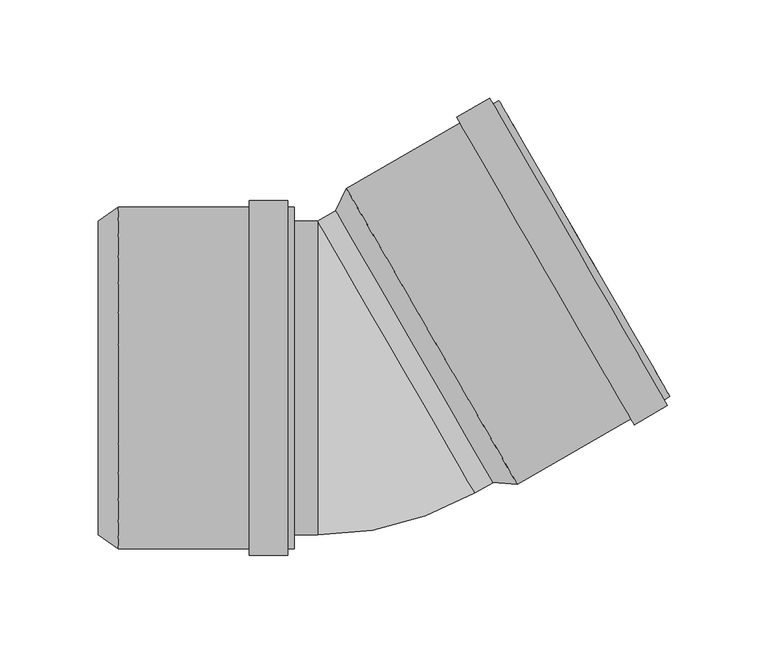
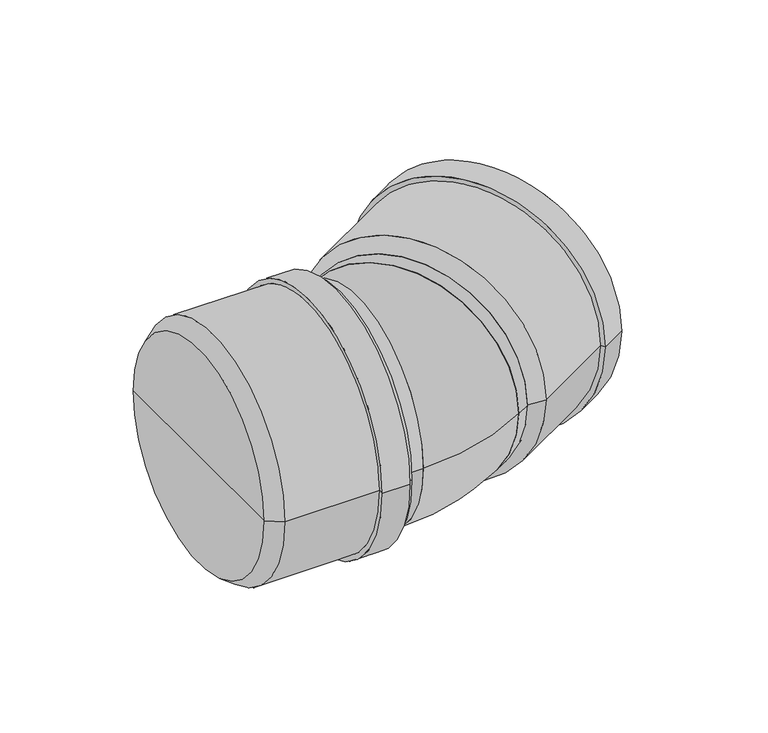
"""IFC4 building model written with IfcOpenShell, lengths in millimetres: pipe fitting geometry, pf_HTB : pf_HTB."""

from ifc_helpers import new_model, si_unit, point, frame, origin, origin_2d, place, context, project, spatial, polyline, circle_curve, ellipse_curve, trimmed, segment, composite_curve, outline, extrude, source, transform, mapped, element, save
from ifc_brep_helpers import plane_surface, cylinder_surface, revolved_surface, advanced_brep


def pipe_fitting_69d4b52c(model_context):
    return source(origin(), model_context, "Body", "SolidModel", [
        advanced_brep(
        [(67.7994155, -53.2320323, 0.0), (-12.2005845, 85.3320323, 0.0), (-6.8305229, 96.6308127, 0.0), (80.2694771, -54.2308127, 0.0), (27.7994155, 16.05, 0.0), (157.9519558, -9.3808127, 0.0), (70.8519558, 141.4808127, 0.0), (74.4019558, 135.3320323, 0.0), (154.4019558, -3.2320323, 0.0), (155.0074695, -11.0808127, 0.0), (67.9074695, 139.7808127, 0.0), (156.7074695, -14.025299, 0.0), (66.2074695, 142.725299, 0.0), (139.8199741, -23.775299, 0.0), (49.3199741, 132.975299, 0.0), (138.1199741, -20.8308127, 0.0), (51.0199741, 130.0308127, 0.0), (76.7194771, -48.0820323, 0.0), (-3.2805229, 90.4820323, 0.0), (36.7194771, 21.2, 0.0)],
        [
            (0, 1, circle_curve(frame((27.7994155, 16.05, 0.0), z_axis=(0.8660254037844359, 0.5000000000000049, 0.0), x_axis=(-0.5000000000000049, 0.8660254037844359, 0.0)), 80.0)),
            (1, 2),
            (2, 3, circle_curve(frame((36.7194771, 21.2, 0.0), z_axis=(-0.8660254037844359, -0.5000000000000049, 0.0), x_axis=(-0.5000000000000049, 0.8660254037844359, 0.0)), 87.1)),
            (3, 0),
            (1, 0, circle_curve(frame((27.7994155, 16.05, 0.0), z_axis=(0.8660254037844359, 0.5000000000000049, 0.0), x_axis=(-0.5000000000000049, 0.8660254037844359, 0.0)), 80.0)),
            (3, 2, circle_curve(frame((36.7194771, 21.2, 0.0), z_axis=(-0.8660254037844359, -0.5000000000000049, 0.0), x_axis=(-0.5000000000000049, 0.8660254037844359, 0.0)), 87.1)),
            (4, 1),
            (0, 4),
            (5, 6, circle_curve(frame((114.4019558, 66.05, 0.0), z_axis=(0.8660254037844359, 0.5000000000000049, 0.0), x_axis=(-0.5000000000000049, 0.8660254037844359, 0.0)), 87.1)),
            (6, 7),
            (7, 8, circle_curve(frame((114.4019558, 66.05, 0.0), z_axis=(-0.8660254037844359, -0.5000000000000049, 0.0), x_axis=(-0.5000000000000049, 0.8660254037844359, 0.0)), 80.0)),
            (8, 5),
            (6, 5, circle_curve(frame((114.4019558, 66.05, 0.0), z_axis=(0.8660254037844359, 0.5000000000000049, 0.0), x_axis=(-0.5000000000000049, 0.8660254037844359, 0.0)), 87.1)),
            (8, 7, circle_curve(frame((114.4019558, 66.05, 0.0), z_axis=(-0.8660254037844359, -0.5000000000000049, 0.0), x_axis=(-0.5000000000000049, 0.8660254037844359, 0.0)), 80.0)),
            (9, 10, circle_curve(frame((111.4574695, 64.35, 0.0), z_axis=(0.8660254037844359, 0.5000000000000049, 0.0), x_axis=(-0.5000000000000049, 0.8660254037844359, 0.0)), 87.1)),
            (10, 6),
            (5, 9),
            (10, 9, circle_curve(frame((111.4574695, 64.35, 0.0), z_axis=(0.8660254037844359, 0.5000000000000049, 0.0), x_axis=(-0.5000000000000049, 0.8660254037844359, 0.0)), 87.1)),
            (11, 12, circle_curve(frame((111.4574695, 64.35, 0.0), z_axis=(0.8660254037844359, 0.5000000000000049, 0.0), x_axis=(-0.5000000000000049, 0.8660254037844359, 0.0)), 90.5)),
            (12, 10),
            (9, 11),
            (12, 11, circle_curve(frame((111.4574695, 64.35, 0.0), z_axis=(0.8660254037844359, 0.5000000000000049, 0.0), x_axis=(-0.5000000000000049, 0.8660254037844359, 0.0)), 90.5)),
            (13, 14, circle_curve(frame((94.5699741, 54.6, 0.0), z_axis=(0.8660254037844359, 0.5000000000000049, 0.0), x_axis=(-0.5000000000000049, 0.8660254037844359, 0.0)), 90.5)),
            (14, 12),
            (11, 13),
            (14, 13, circle_curve(frame((94.5699741, 54.6, 0.0), z_axis=(0.8660254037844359, 0.5000000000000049, 0.0), x_axis=(-0.5000000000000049, 0.8660254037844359, 0.0)), 90.5)),
            (15, 16, circle_curve(frame((94.5699741, 54.6, 0.0), z_axis=(0.8660254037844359, 0.5000000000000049, 0.0), x_axis=(-0.5000000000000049, 0.8660254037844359, 0.0)), 87.1)),
            (16, 14),
            (13, 15),
            (16, 15, circle_curve(frame((94.5699741, 54.6, 0.0), z_axis=(0.8660254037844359, 0.5000000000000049, 0.0), x_axis=(-0.5000000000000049, 0.8660254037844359, 0.0)), 87.1)),
            (2, 16),
            (15, 3),
            (17, 18, circle_curve(frame((36.7194771, 21.2, 0.0), z_axis=(0.8660254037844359, 0.5000000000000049, 0.0), x_axis=(-0.5000000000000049, 0.8660254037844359, 0.0)), 80.0)),
            (18, 19),
            (19, 17),
            (18, 17, circle_curve(frame((36.7194771, 21.2, 0.0), z_axis=(0.8660254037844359, 0.5000000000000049, 0.0), x_axis=(-0.5000000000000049, 0.8660254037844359, 0.0)), 80.0)),
            (7, 18),
            (17, 8),
        ],
        [
            revolved_surface(polyline([(-6.8305229, 96.6308127, 0.0), (-12.2005845, 85.3320323, 0.0)]), (27.7994155, 16.05, 0.0), (-0.8660254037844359, -0.5000000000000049, 0.0)),
            plane_surface(frame((27.7994155, 16.05, 0.0), z_axis=(-0.8660254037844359, -0.5000000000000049, 0.0), x_axis=(-0.5000000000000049, 0.8660254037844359, 0.0))),
            plane_surface(frame((114.4019558, 66.05, 0.0), z_axis=(0.8660254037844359, 0.5000000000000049, 0.0), x_axis=(-0.5000000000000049, 0.8660254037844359, 0.0))),
            cylinder_surface(frame((27.7994155, 16.05, 0.0), z_axis=(-0.8660254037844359, -0.5000000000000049, 0.0), x_axis=(-0.5000000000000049, 0.8660254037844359, 0.0)), 87.1),
            plane_surface(frame((111.4574695, 64.35, 0.0), z_axis=(0.8660254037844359, 0.5000000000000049, 0.0), x_axis=(-0.5000000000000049, 0.8660254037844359, 0.0))),
            cylinder_surface(frame((27.7994155, 16.05, 0.0), z_axis=(-0.8660254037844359, -0.5000000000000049, 0.0), x_axis=(-0.5000000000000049, 0.8660254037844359, 0.0)), 90.5),
            plane_surface(frame((94.5699741, 54.6, 0.0), z_axis=(-0.8660254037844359, -0.5000000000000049, 0.0), x_axis=(-0.5000000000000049, 0.8660254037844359, 0.0))),
            plane_surface(frame((36.7194771, 21.2, 0.0), z_axis=(0.8660254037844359, 0.5000000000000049, 0.0), x_axis=(-0.5000000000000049, 0.8660254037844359, 0.0))),
            revolved_surface(polyline([(-3.2805228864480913, 90.4820322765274, 0.0), (74.40195582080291, 135.3320322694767, 0.0)]), (27.7994155, 16.05, 0.0), (-0.8660254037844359, -0.5000000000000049, 0.0)),
        ],
        [
            (0, [[1, 2, 3, 4]]),
            (0, [[5, -4, 6, -2]]),
            (1, [[7, -1, 8]]),
            (1, [[-8, -5, -7]]),
            (2, [[9, 10, 11, 12]]),
            (2, [[13, -12, 14, -10]]),
            (3, [[15, 16, -9, 17]]),
            (3, [[18, -17, -13, -16]]),
            (4, [[19, 20, -15, 21]]),
            (4, [[22, -21, -18, -20]]),
            (5, [[23, 24, -19, 25]]),
            (5, [[26, -25, -22, -24]]),
            (6, [[27, 28, -23, 29]]),
            (6, [[30, -29, -26, -28]]),
            (3, [[-3, 31, -27, 32]]),
            (3, [[-6, -32, -30, -31]]),
            (7, [[33, 34, 35]]),
            (7, [[36, -35, -34]]),
            (8, [[-11, 37, -33, 38]]),
            (8, [[-14, -38, -36, -37]]),
        ],
    ),
        advanced_brep(
        [(-133.3, -80.0, 0.0), (-133.3, 80.0, 0.0), (-123.0, 87.1, 0.0), (-123.0, -87.1, 0.0), (-133.3, 0.0, 0.0), (-33.3, -87.1, 0.0), (-33.3, 87.1, 0.0), (-33.3, 80.0, 0.0), (-33.3, -80.0, 0.0), (-36.7, -87.1, 0.0), (-36.7, 87.1, 0.0), (-36.7, -90.5, 0.0), (-36.7, 90.5, 0.0), (-56.2, -90.5, 0.0), (-56.2, 90.5, 0.0), (-56.2, -87.1, 0.0), (-56.2, 87.1, 0.0), (-123.0, -80.0, 0.0), (-123.0, 80.0, 0.0), (-123.0, 0.0, 0.0)],
        [
            (0, 1, circle_curve(frame((-133.3, 0.0, 0.0), z_axis=(1.0, 0.0, 0.0), x_axis=(0.0, 1.0, 0.0)), 80.0)),
            (1, 2),
            (2, 3, circle_curve(frame((-123.0, 0.0, 0.0), z_axis=(-1.0, 0.0, 0.0), x_axis=(0.0, 1.0, 0.0)), 87.1)),
            (3, 0),
            (1, 0, circle_curve(frame((-133.3, 0.0, 0.0), z_axis=(1.0, 0.0, 0.0), x_axis=(0.0, 1.0, 0.0)), 80.0)),
            (3, 2, circle_curve(frame((-123.0, 0.0, 0.0), z_axis=(-1.0, 0.0, 0.0), x_axis=(0.0, 1.0, 0.0)), 87.1)),
            (4, 1),
            (0, 4),
            (5, 6, circle_curve(frame((-33.3, 0.0, 0.0), z_axis=(1.0, 0.0, 0.0), x_axis=(0.0, 1.0, 0.0)), 87.1)),
            (6, 7),
            (7, 8, circle_curve(frame((-33.3, 0.0, 0.0), z_axis=(-1.0, 0.0, 0.0), x_axis=(0.0, 1.0, 0.0)), 80.0)),
            (8, 5),
            (6, 5, circle_curve(frame((-33.3, 0.0, 0.0), z_axis=(1.0, 0.0, 0.0), x_axis=(0.0, 1.0, 0.0)), 87.1)),
            (8, 7, circle_curve(frame((-33.3, 0.0, 0.0), z_axis=(-1.0, 0.0, 0.0), x_axis=(0.0, 1.0, 0.0)), 80.0)),
            (9, 10, circle_curve(frame((-36.7, 0.0, 0.0), z_axis=(1.0, 0.0, 0.0), x_axis=(0.0, 1.0, 0.0)), 87.1)),
            (10, 6),
            (5, 9),
            (10, 9, circle_curve(frame((-36.7, 0.0, 0.0), z_axis=(1.0, 0.0, 0.0), x_axis=(0.0, 1.0, 0.0)), 87.1)),
            (11, 12, circle_curve(frame((-36.7, 0.0, 0.0), z_axis=(1.0, 0.0, 0.0), x_axis=(0.0, 1.0, 0.0)), 90.5)),
            (12, 10),
            (9, 11),
            (12, 11, circle_curve(frame((-36.7, 0.0, 0.0), z_axis=(1.0, 0.0, 0.0), x_axis=(0.0, 1.0, 0.0)), 90.5)),
            (13, 14, circle_curve(frame((-56.2, 0.0, 0.0), z_axis=(1.0, 0.0, 0.0), x_axis=(0.0, 1.0, 0.0)), 90.5)),
            (14, 12),
            (11, 13),
            (14, 13, circle_curve(frame((-56.2, 0.0, 0.0), z_axis=(1.0, 0.0, 0.0), x_axis=(0.0, 1.0, 0.0)), 90.5)),
            (15, 16, circle_curve(frame((-56.2, 0.0, 0.0), z_axis=(1.0, 0.0, 0.0), x_axis=(0.0, 1.0, 0.0)), 87.1)),
            (16, 14),
            (13, 15),
            (16, 15, circle_curve(frame((-56.2, 0.0, 0.0), z_axis=(1.0, 0.0, 0.0), x_axis=(0.0, 1.0, 0.0)), 87.1)),
            (2, 16),
            (15, 3),
            (17, 18, circle_curve(frame((-123.0, 0.0, 0.0), z_axis=(1.0, 0.0, 0.0), x_axis=(0.0, 1.0, 0.0)), 80.0)),
            (18, 19),
            (19, 17),
            (18, 17, circle_curve(frame((-123.0, 0.0, 0.0), z_axis=(1.0, 0.0, 0.0), x_axis=(0.0, 1.0, 0.0)), 80.0)),
            (7, 18),
            (17, 8),
        ],
        [
            revolved_surface(polyline([(-123.0, 87.1, 0.0), (-133.3, 80.0, 0.0)]), (-133.3, 0.0, 0.0), (-1.0, 0.0, 0.0)),
            plane_surface(frame((-133.3, 0.0, 0.0), z_axis=(-1.0, 0.0, 0.0), x_axis=(0.0, 1.0, 0.0))),
            plane_surface(frame((-33.3, 0.0, 0.0), z_axis=(1.0, 0.0, 0.0), x_axis=(0.0, 1.0, 0.0))),
            cylinder_surface(frame((-133.3, 0.0, 0.0), z_axis=(-1.0, 0.0, 0.0), x_axis=(0.0, 1.0, 0.0)), 87.1),
            plane_surface(frame((-36.7, 0.0, 0.0), z_axis=(1.0, 0.0, 0.0), x_axis=(0.0, 1.0, 0.0))),
            cylinder_surface(frame((-133.3, 0.0, 0.0), z_axis=(-1.0, 0.0, 0.0), x_axis=(0.0, 1.0, 0.0)), 90.5),
            plane_surface(frame((-56.2, 0.0, 0.0), z_axis=(-1.0, 0.0, 0.0), x_axis=(0.0, 1.0, 0.0))),
            plane_surface(frame((-123.0, 0.0, 0.0), z_axis=(1.0, 0.0, 0.0), x_axis=(0.0, 1.0, 0.0))),
            revolved_surface(polyline([(-123.0, 80.0, 0.0), (-33.3, 80.0, 0.0)]), (-133.3, 0.0, 0.0), (-1.0, 0.0, 0.0)),
        ],
        [
            (0, [[1, 2, 3, 4]]),
            (0, [[5, -4, 6, -2]]),
            (1, [[7, -1, 8]]),
            (1, [[-8, -5, -7]]),
            (2, [[9, 10, 11, 12]]),
            (2, [[13, -12, 14, -10]]),
            (3, [[15, 16, -9, 17]]),
            (3, [[18, -17, -13, -16]]),
            (4, [[19, 20, -15, 21]]),
            (4, [[22, -21, -18, -20]]),
            (5, [[23, 24, -19, 25]]),
            (5, [[26, -25, -22, -24]]),
            (6, [[27, 28, -23, 29]]),
            (6, [[30, -29, -26, -28]]),
            (3, [[-3, 31, -27, 32]]),
            (3, [[-6, -32, -30, -31]]),
            (7, [[33, 34, 35]]),
            (7, [[36, -35, -34]]),
            (8, [[-11, 37, -33, 38]]),
            (8, [[-14, -38, -36, -37]]),
        ],
    ),
        extrude(outline(composite_curve([segment(trimmed(circle_curve(origin_2d(), 80.0), [point((0.0, -80.0))], [point((0.0, 80.0))], False, "CARTESIAN"), True, "CONTINUOUS"), segment(trimmed(circle_curve(origin_2d(), 80.0), [point((0.0, 80.0))], [point((0.0, -80.0))], False, "CARTESIAN"), True, "CONTINUOUS")], self_intersect=False)), frame((18.5640646, 10.7179677, 0.0), z_axis=(0.8660254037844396, 0.49999999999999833, 0.0), x_axis=(0.0, 0.0, 1.0)), (0.0, 0.0, 1.0), 20.9640646),
        extrude(outline(composite_curve([segment(trimmed(circle_curve(origin_2d(), 80.0), [point((-80.0, 0.0))], [point((80.0, 0.0))], False, "CARTESIAN"), True, "CONTINUOUS"), segment(trimmed(circle_curve(origin_2d(), 80.0), [point((80.0, 0.0))], [point((-80.0, 0.0))], False, "CARTESIAN"), True, "CONTINUOUS")], self_intersect=False)), frame((-123.0, 0.0, 0.0), z_axis=(1.0, 0.0, 0.0), x_axis=(0.0, 1.0, 0.0)), (0.0, 0.0, 1.0), 101.5640646),
        advanced_brep(
        [(-21.4359354, -80.0, 0.0), (-21.4359354, 80.0, 0.0), (58.5640646, -58.5640646, 0.0)],
        [
            (0, 1, circle_curve(frame((-21.4359354, 0.0, 0.0), z_axis=(-1.0, 0.0, 0.0), x_axis=(0.0, 1.0, 0.0)), 80.0)),
            (1, 0, circle_curve(frame((-21.4359354, 0.0, 0.0), z_axis=(-1.0, 0.0, 0.0), x_axis=(0.0, 1.0, 0.0)), 80.0)),
            (2, 1, circle_curve(frame((18.5640646, 10.7179677, 0.0), z_axis=(0.8660254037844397, 0.49999999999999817, 0.0), x_axis=(-0.49999999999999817, 0.8660254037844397, 0.0)), 80.0)),
            (1, 2, circle_curve(frame((18.5640646, 10.7179677, 0.0), z_axis=(0.8660254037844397, 0.49999999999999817, 0.0), x_axis=(-0.49999999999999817, 0.8660254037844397, 0.0)), 80.0)),
            (2, 0, circle_curve(frame((-21.4359354, 80.0, 0.0), z_axis=(0.0, 0.0, -1.0), x_axis=(0.0, -1.0, 0.0)), 160.0)),
        ],
        [
            plane_surface(frame((-21.4359354, 80.0, -14.8), z_axis=(-1.0, 0.0, 0.0), x_axis=(0.0, -1.0, 0.0))),
            plane_surface(frame((-21.4359354, 80.0, -14.8), z_axis=(0.8660254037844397, 0.4999999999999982, 0.0), x_axis=(0.4999999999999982, -0.8660254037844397, 0.0))),
            revolved_surface(trimmed(ellipse_curve(frame((-21.4359354, 0.0, 0.0), z_axis=(1.0, 0.0, 0.0), x_axis=(0.0, 1.0, 0.0)), 80.0, 80.0), [point((-21.4359354, -80.0, 0.0))], [point((-21.4359354, 80.0, 0.0))], True, "CARTESIAN"), (-21.4359354, 80.0, -14.8), (0.0, 0.0, -1.0)),
            revolved_surface(trimmed(ellipse_curve(frame((-21.4359354, 0.0, 0.0), z_axis=(1.0, 0.0, 0.0), x_axis=(0.0, 1.0, 0.0)), 80.0, 80.0), [point((-21.4359354, 80.0, 0.0))], [point((-21.4359354, -80.0, 0.0))], True, "CARTESIAN"), (-21.4359354, 80.0, -14.8), (0.0, 0.0, -1.0)),
        ],
        [
            (0, [[1, 2]]),
            (1, [[3, 4]]),
            (2, [[5, -2, -3]]),
            (3, [[-1, -5, -4]]),
        ],
    ),
    ])


if __name__ == "__main__":
    model = new_model("IFC4")
    model_context = context("Model", 3, world=origin())
    ifc_project = project(units=[si_unit("LENGTHUNIT", "METRE", prefix="MILLI")], contexts=[model_context])
    site = spatial("IfcSite", under=ifc_project)
    building = spatial("IfcBuilding", under=site)
    placement = place(None, origin())
    pipe_fitting_shape = pipe_fitting_69d4b52c(model_context)
    element("IfcPipeFitting", 1, ObjectType="pf_HTB : pf_HTB", at=placement, inside=building, context=model_context, shape_type="MappedRepresentation", body=[
        mapped(pipe_fitting_shape, transform((0.0, 0.0, 0.0), x_axis=(1.0, 0.0, 0.0), y_axis=(0.0, 1.0, 0.0), z_axis=(0.0, 0.0, 1.0))),
    ])
    save(model, "model.ifc")
